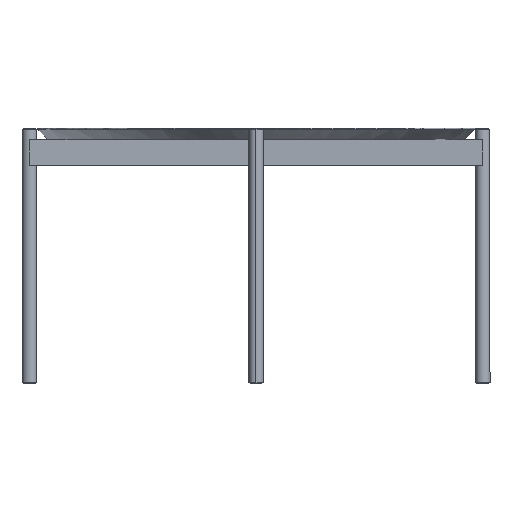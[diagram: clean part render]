
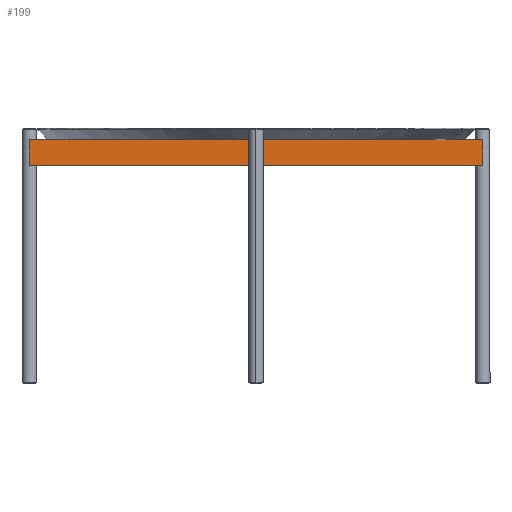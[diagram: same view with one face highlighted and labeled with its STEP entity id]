
A CAD part, left-side view. The second image highlights one B-rep face of the part: STEP entity #199.
In plain terms, the highlighted planar face has unit normal (-1, 0, 0).
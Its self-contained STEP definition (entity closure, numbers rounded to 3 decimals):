
#199=ADVANCED_FACE('',(#251),#725,.T.);
#251=FACE_OUTER_BOUND('',#303,.T.);
#303=EDGE_LOOP('',(#442,#443,#444,#445));
#442=ORIENTED_EDGE('',*,*,#576,.T.);
#443=ORIENTED_EDGE('',*,*,#569,.T.);
#444=ORIENTED_EDGE('',*,*,#577,.F.);
#445=ORIENTED_EDGE('',*,*,#574,.F.);
#569=EDGE_CURVE('',#685,#688,#637,.T.);
#574=EDGE_CURVE('',#691,#692,#642,.T.);
#576=EDGE_CURVE('',#691,#685,#644,.T.);
#577=EDGE_CURVE('',#692,#688,#645,.T.);
#637=B_SPLINE_CURVE_WITH_KNOTS('',1,(#1229,#1230),.UNSPECIFIED.,.F.,.F.,
(2,2),(0.,3.5),.UNSPECIFIED.);
#642=B_SPLINE_CURVE_WITH_KNOTS('',1,(#1239,#1240),.UNSPECIFIED.,.F.,.F.,
(2,2),(0.,3.5),.UNSPECIFIED.);
#644=B_SPLINE_CURVE_WITH_KNOTS('',1,(#1243,#1244),.UNSPECIFIED.,.F.,.F.,
(2,2),(-82.,0.),.UNSPECIFIED.);
#645=B_SPLINE_CURVE_WITH_KNOTS('',1,(#1245,#1246),.UNSPECIFIED.,.F.,.F.,
(2,2),(-82.,0.),.UNSPECIFIED.);
#685=VERTEX_POINT('',#1215);
#688=VERTEX_POINT('',#1218);
#691=VERTEX_POINT('',#1221);
#692=VERTEX_POINT('',#1222);
#725=PLANE('',#767);
#767=AXIS2_PLACEMENT_3D('',#1212,#793,$);
#793=DIRECTION('',(-1.,0.,0.));
#1212=CARTESIAN_POINT('',(25959.428,256.563,17.2));
#1215=CARTESIAN_POINT('',(25959.428,-363.434,17.2));
#1218=CARTESIAN_POINT('',(25959.428,-363.434,52.2));
#1221=CARTESIAN_POINT('',(25959.428,256.563,17.2));
#1222=CARTESIAN_POINT('',(25959.428,256.563,52.2));
#1229=CARTESIAN_POINT('',(25959.428,-363.434,17.2));
#1230=CARTESIAN_POINT('',(25959.428,-363.434,52.2));
#1239=CARTESIAN_POINT('',(25959.428,256.563,17.2));
#1240=CARTESIAN_POINT('',(25959.428,256.563,52.2));
#1243=CARTESIAN_POINT('',(25959.428,256.563,17.2));
#1244=CARTESIAN_POINT('',(25959.428,-363.434,17.2));
#1245=CARTESIAN_POINT('',(25959.428,256.563,52.2));
#1246=CARTESIAN_POINT('',(25959.428,-363.434,52.2));
